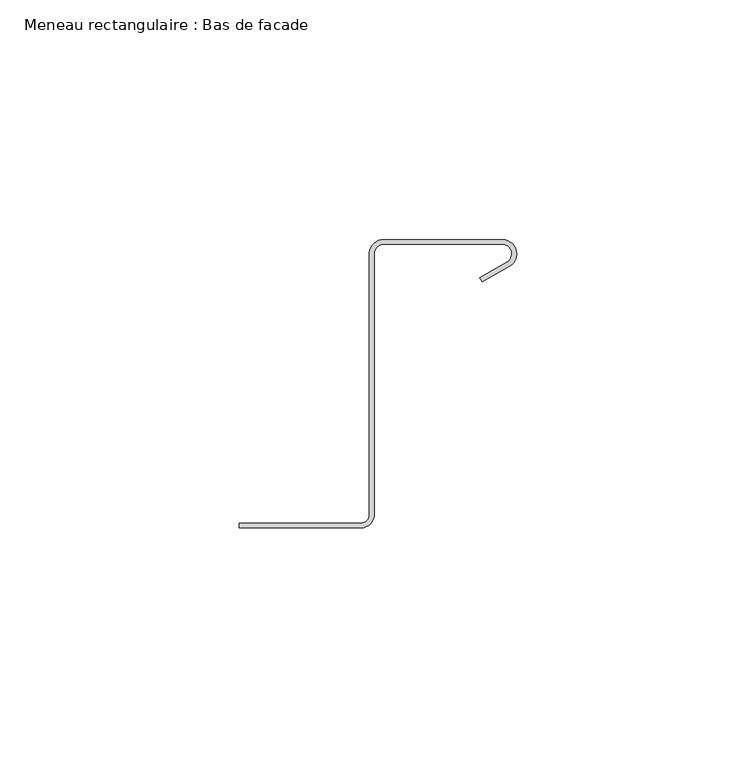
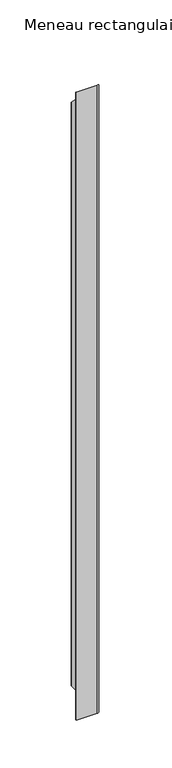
"""IFC4 building model written with IfcOpenShell, lengths in millimetres: member geometry, Meneau rectangulaire : Bas de facade."""

from ifc_helpers import new_model, si_unit, frame, origin, place, context, project, spatial, polyline, circle_curve, ellipse_curve, source, transform, mapped, element, save
from ifc_brep_helpers import plane_surface, cylinder_surface, revolved_surface, advanced_brep


def meneau_rectangulaire_bas_de_facade_b41b154c(model_context):
    return source(origin(), model_context, "Body", "AdvancedBrep", [
        advanced_brep(
        [(-32.4584179, -2.9588923, -801.0000003), (-57.8548383, -2.9588923, -801.0000003), (-57.8548383, -1.9588923, -801.0000003), (-32.4584179, -1.9588923, -801.0000003), (-30.7239521, -0.4415475, -801.0000003), (-30.7239521, 54.522067, -801.0000003), (-27.735368, 57.2605998, -801.0000003), (-3.0, 57.2605998, -801.0000003), (-1.5, 51.6625235, -801.0000003), (-7.1638061, 48.3925235, -801.0000003), (-7.6638061, 49.258549, -801.0000003), (-2.0, 52.528549, -801.0000003), (-3.0, 56.2605998, -801.0000003), (-27.735368, 56.2605998, -801.0000003), (-29.7143802, 54.5495817, -801.0000003), (-29.7143802, -0.3898824, -801.0000003), (-29.7143802, -0.3898824, 0.3898824), (-32.4584179, -2.9588923, 2.9588923), (-29.7143802, 54.5495817, -54.5495817), (-27.735368, 56.2605998, -56.2605998), (-3.0, 56.2605998, -56.2605998), (-2.0, 52.528549, -52.528549), (-7.6638061, 49.258549, -49.258549), (-7.1638061, 48.3925235, -48.3925235), (-1.5, 51.6625235, -51.6625235), (-3.0, 57.2605998, -57.2605998), (-27.735368, 57.2605998, -57.2605998), (-30.7239521, 54.522067, -54.522067), (-30.7239521, -0.4415475, 0.4415475), (-32.4584179, -1.9588923, 1.9588923), (-57.8548383, -1.9588923, 1.9588923), (-57.8548383, -2.9588923, 2.9588923)],
        [
            (0, 1),
            (1, 2),
            (2, 3),
            (3, 4, circle_curve(frame((-32.4584179, -0.2088923, -801.0000003), z_axis=(0.0, 0.0, 1.0), x_axis=(0.0, -1.0, 0.0)), 1.75)),
            (4, 5),
            (5, 6, circle_curve(frame((-27.735368, 54.2605998, -801.0000003), z_axis=(0.0, 0.0, -1.0), x_axis=(-0.9961946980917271, 0.08715574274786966, 0.0)), 3.0)),
            (6, 7),
            (7, 8, circle_curve(frame((-3.0, 54.2605998, -801.0000003), z_axis=(0.0, 0.0, -1.0), x_axis=(0.0, 1.0, 0.0)), 3.0)),
            (8, 9),
            (9, 10),
            (10, 11),
            (11, 12, circle_curve(frame((-3.0, 54.2605998, -801.0000003), z_axis=(0.0, 0.0, 1.0), x_axis=(0.0, 1.0, 0.0)), 2.0)),
            (12, 13),
            (13, 14, circle_curve(frame((-27.735368, 54.2605998, -801.0000003), z_axis=(0.0, 0.0, 1.0), x_axis=(-0.9961946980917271, 0.08715574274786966, 0.0)), 2.0)),
            (14, 15),
            (15, 0, circle_curve(frame((-32.4584179, -0.2088923, -801.0000003), z_axis=(0.0, 0.0, -1.0), x_axis=(0.0, -1.0, 0.0)), 2.75)),
            (16, 17, ellipse_curve(frame((-32.4584179, -0.2088923, 0.2088923), z_axis=(0.0, -0.7071067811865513, -0.7071067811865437), x_axis=(0.0, -0.7071067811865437, 0.7071067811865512)), 3.8890873, 2.75)),
            (17, 0),
            (15, 16),
            (18, 16),
            (14, 18),
            (19, 18, ellipse_curve(frame((-27.735368, 54.2605998, -54.2605998), z_axis=(0.0, 0.7071067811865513, 0.7071067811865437), x_axis=(0.0, 0.7071067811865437, -0.7071067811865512)), 2.8284271, 2.0)),
            (13, 19),
            (20, 19),
            (12, 20),
            (21, 20, ellipse_curve(frame((-3.0, 54.2605998, -54.2605998), z_axis=(0.0, 0.7071067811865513, 0.7071067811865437), x_axis=(0.0, 0.7071067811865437, -0.7071067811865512)), 2.8284271, 2.0)),
            (11, 21),
            (22, 21),
            (10, 22),
            (23, 22),
            (9, 23),
            (24, 23),
            (8, 24),
            (25, 24, ellipse_curve(frame((-3.0, 54.2605998, -54.2605998), z_axis=(0.0, -0.7071067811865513, -0.7071067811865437), x_axis=(0.0, -0.7071067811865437, 0.7071067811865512)), 4.2426407, 3.0)),
            (7, 25),
            (26, 25),
            (6, 26),
            (27, 26, ellipse_curve(frame((-27.735368, 54.2605998, -54.2605998), z_axis=(0.0, -0.7071067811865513, -0.7071067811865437), x_axis=(0.0, -0.7071067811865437, 0.7071067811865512)), 4.2426407, 3.0)),
            (5, 27),
            (28, 27),
            (4, 28),
            (29, 28, ellipse_curve(frame((-32.4584179, -0.2088923, 0.2088923), z_axis=(0.0, 0.7071067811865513, 0.7071067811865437), x_axis=(0.0, 0.7071067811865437, -0.7071067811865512)), 2.4748737, 1.75)),
            (3, 29),
            (30, 29),
            (2, 30),
            (31, 30),
            (1, 31),
            (17, 31),
        ],
        [
            plane_surface(frame((0.0, -63.8351035, -801.0000003), z_axis=(0.0, 0.0, -1.0), x_axis=(-1.0, 0.0, 0.0))),
            cylinder_surface(frame((-32.4584179, -0.2088923, 0.0), z_axis=(0.0, 0.0, 1.0), x_axis=(0.0, -1.0, 0.0)), 2.75),
            plane_surface(frame((-29.7143802, -0.3898824, 0.0), z_axis=(1.0, 0.0, 0.0), x_axis=(0.0, 0.0, -1.0))),
            revolved_surface(polyline([(-29.727757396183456, 54.434911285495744, -801.0000003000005), (-29.727757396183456, 54.434911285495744, -52.26059981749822)]), (-27.735368, 54.2605998, 0.0), (0.0, 0.0, -1.0000000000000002)),
            plane_surface(frame((-27.735368, 56.2605998, 0.0), z_axis=(0.0, -1.0, 0.0), x_axis=(0.0, 0.0, -1.0))),
            revolved_surface(polyline([(-3.0, 56.2605998, -801.0000003), (-3.0, 56.2605998, -52.26059981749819)]), (-3.0, 54.2605998, 0.0), (0.0, 0.0, -1.0)),
            plane_surface(frame((-2.0, 52.528549, 0.0), z_axis=(-0.500000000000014, 0.8660254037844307, 0.0), x_axis=(0.0, 0.0, -1.0))),
            plane_surface(frame((-7.6638061, 49.258549, 0.0), z_axis=(-0.8660254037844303, -0.5000000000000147, 0.0), x_axis=(0.0, 0.0, -1.0))),
            plane_surface(frame((-7.1638061, 48.3925235, 0.0), z_axis=(0.5000000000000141, -0.8660254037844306, 0.0), x_axis=(0.0, 0.0, -1.0))),
            cylinder_surface(frame((-3.0, 54.2605998, 0.0), z_axis=(0.0, 0.0, 1.0), x_axis=(0.0, 1.0, 0.0)), 3.0),
            plane_surface(frame((-3.0, 57.2605998, 0.0), z_axis=(0.0, 1.0, 0.0), x_axis=(0.0, 0.0, -1.0))),
            cylinder_surface(frame((-27.735368, 54.2605998, 0.0), z_axis=(0.0, 0.0, 1.0000000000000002), x_axis=(-0.9961946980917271, 0.08715574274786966, 0.0)), 3.0),
            plane_surface(frame((-30.7239521, 54.522067, 0.0), z_axis=(-1.0, 0.0, 0.0), x_axis=(0.0, 0.0, -1.0))),
            revolved_surface(polyline([(-32.4584179, -1.9588923, -801.0000003), (-32.4584179, -1.9588923, 1.9588923)]), (-32.4584179, -0.2088923, 0.0), (0.0, 0.0, -1.0)),
            plane_surface(frame((-32.4584179, -1.9588923, 0.0), z_axis=(0.0, 1.0, 0.0), x_axis=(0.0, 0.0, -1.0))),
            plane_surface(frame((-57.8548383, -1.9588923, 0.0), z_axis=(-1.0, 0.0, 0.0), x_axis=(0.0, 0.0, -1.0))),
            plane_surface(frame((-57.8548383, -2.9588923, 0.0), z_axis=(0.0, -1.0, 0.0), x_axis=(0.0, 0.0, -1.0))),
            plane_surface(frame((-304.8, 0.0, 0.0), z_axis=(0.0, 0.7071067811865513, 0.7071067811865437), x_axis=(0.0, 0.7071067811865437, -0.7071067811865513))),
        ],
        [
            (0, [[1, 2, 3, 4, 5, 6, 7, 8, 9, 10, 11, 12, 13, 14, 15, 16]]),
            (1, [[17, 18, -16, 19]]),
            (2, [[20, -19, -15, 21]]),
            (3, [[22, -21, -14, 23]]),
            (4, [[24, -23, -13, 25]]),
            (5, [[26, -25, -12, 27]]),
            (6, [[28, -27, -11, 29]]),
            (7, [[30, -29, -10, 31]]),
            (8, [[32, -31, -9, 33]]),
            (9, [[34, -33, -8, 35]]),
            (10, [[36, -35, -7, 37]]),
            (11, [[38, -37, -6, 39]]),
            (12, [[40, -39, -5, 41]]),
            (13, [[42, -41, -4, 43]]),
            (14, [[44, -43, -3, 45]]),
            (15, [[46, -45, -2, 47]]),
            (16, [[48, -47, -1, -18]]),
            (17, [[-17, -20, -22, -24, -26, -28, -30, -32, -34, -36, -38, -40, -42, -44, -46, -48]]),
        ],
    ),
    ])


if __name__ == "__main__":
    model = new_model("IFC4")
    model_context = context("Model", 3, world=origin())
    ifc_project = project(units=[si_unit("LENGTHUNIT", "METRE", prefix="MILLI")], contexts=[model_context])
    site = spatial("IfcSite", under=ifc_project)
    building = spatial("IfcBuilding", under=site)
    placement = place(None, origin())
    meneau_rectangulaire_bas_de_facade_shape = meneau_rectangulaire_bas_de_facade_b41b154c(model_context)
    element("IfcMember", 1, ObjectType="Meneau rectangulaire : Bas de facade", at=placement, inside=building, context=model_context, shape_type="MappedRepresentation", body=[
        mapped(meneau_rectangulaire_bas_de_facade_shape, transform((0.0, 0.0, 0.0), x_axis=(1.0, 0.0, 0.0), y_axis=(0.0, 1.0, 0.0), z_axis=(0.0, 0.0, 1.0))),
    ])
    save(model, "model.ifc")
